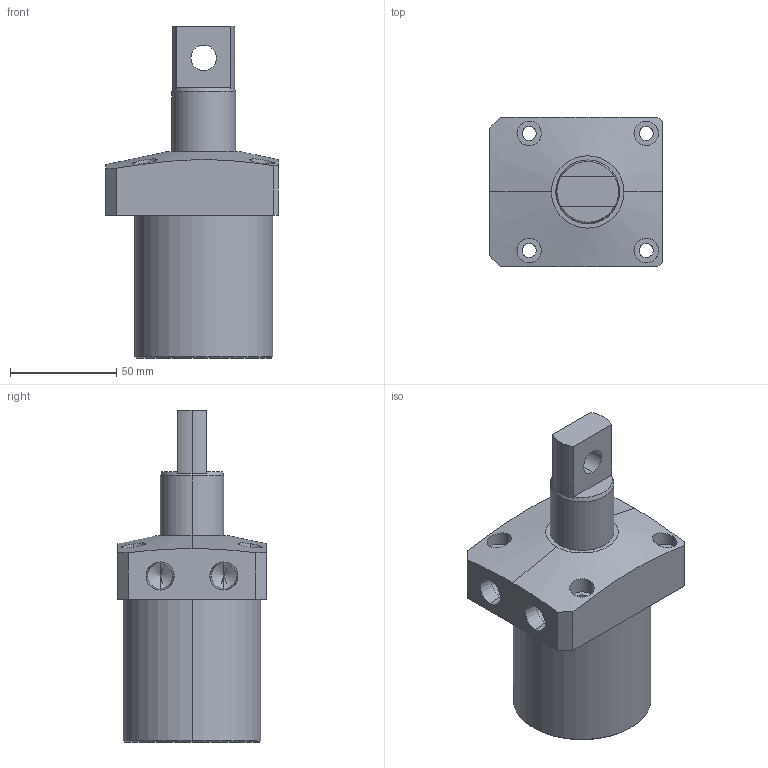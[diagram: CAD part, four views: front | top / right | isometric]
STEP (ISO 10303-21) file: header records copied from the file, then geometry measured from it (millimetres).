
FILE_DESCRIPTION (( 'STEP AP214' ), '1' );
FILE_NAME ('SC02-652-LH-TOP-PTYPE.STEP', '2021-08-23T05:05:38', ( '' ), ( '' ), 'SwSTEP 2.0', 'SolidWorks 2019', '' );
FILE_SCHEMA (( 'AUTOMOTIVE_DESIGN' ));
Length unit declared in the file: millimetre
Products named in the file (3): SC02-652-LH-TOP-PTYPE; 65-ptype-piston; 65-body
Assembly tree (2 placements, depth 2):
  SC02-652-LH-TOP-PTYPE
    65-body
    65-ptype-piston
Bounding box: 81 x 70 x 156 mm (x, y, z)
Volume: 372091.8 mm3; surface area: 54875.6 mm2
Topology: 2 solids, 2 shells, 73 faces, 170 edges, 107 vertices
Faces by surface type: cylinder 35, plane 24, cone 14
Entity records: 2562 total; most frequent: CARTESIAN_POINT 762, DIRECTION 373, ORIENTED_EDGE 332, EDGE_CURVE 166, AXIS2_PLACEMENT_3D 151, VERTEX_POINT 107, EDGE_LOOP 93, CIRCLE 73
